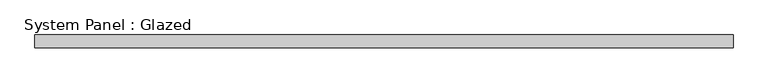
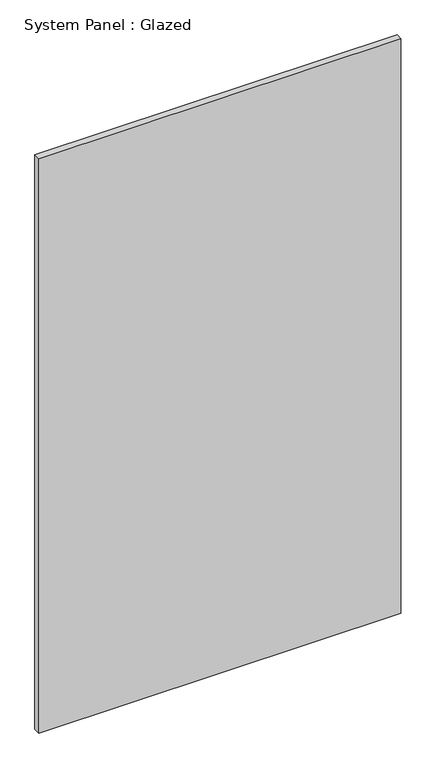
"""IFC4 building model written with IfcOpenShell, lengths in millimetres: plate geometry, System Panel : Glazed."""

from ifc_helpers import new_model, si_unit, origin, origin_with_axes, place, context, project, spatial, polyline, outline, extrude, source, transform, mapped, element, save


def system_panel_glazed_2e30f1c6(model_context):
    return source(origin(), model_context, "Body", "SweptSolid", [
        extrude(outline(polyline([(698.6023927, 19.05), (-698.6023927, 19.05), (-698.6023927, 44.45), (698.6023927, 44.45), (698.6023927, 19.05)])), origin_with_axes(), (0.0, 0.0, 1.0), 2343.15),
    ])


if __name__ == "__main__":
    model = new_model("IFC4")
    model_context = context("Model", 3, world=origin())
    ifc_project = project(units=[si_unit("LENGTHUNIT", "METRE", prefix="MILLI")], contexts=[model_context])
    site = spatial("IfcSite", under=ifc_project)
    building = spatial("IfcBuilding", under=site)
    placement = place(None, origin())
    system_panel_glazed_shape = system_panel_glazed_2e30f1c6(model_context)
    element("IfcPlate", 1, ObjectType="System Panel : Glazed", at=placement, inside=building, context=model_context, shape_type="MappedRepresentation", body=[
        mapped(system_panel_glazed_shape, transform((0.0, 0.0, 0.0), x_axis=(1.0, 0.0, 0.0), y_axis=(0.0, 1.0, 0.0), z_axis=(0.0, 0.0, 1.0))),
    ])
    save(model, "model.ifc")
